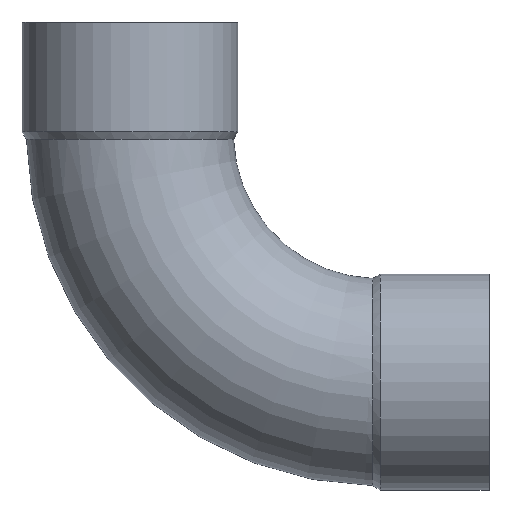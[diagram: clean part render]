
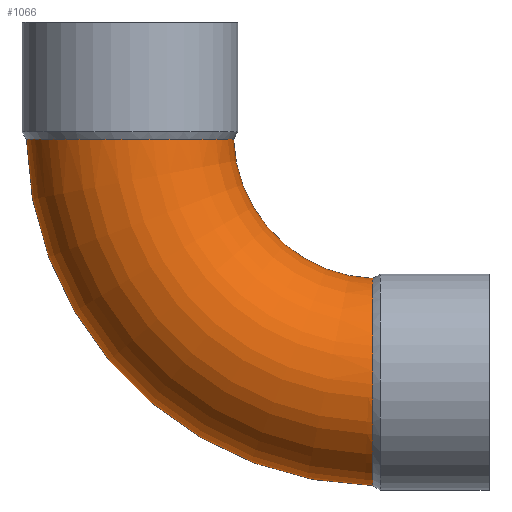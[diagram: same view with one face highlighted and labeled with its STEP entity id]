
A CAD part, front view. The second image highlights one B-rep face of the part: STEP entity #1066.
In plain terms, the highlighted toroidal (fillet/blend) face has major radius 80.04 mm and minor radius 33.35 mm.
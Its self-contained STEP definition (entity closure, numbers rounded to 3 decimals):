
#49=CARTESIAN_POINT('',(-91.34,0.,-1.867));
#50=VERTEX_POINT('',#49);
#51=CARTESIAN_POINT('',(20.168,0.,-113.375));
#52=VERTEX_POINT('',#51);
#53=CARTESIAN_POINT('',(22.035,0.,0.0));
#54=DIRECTION('',(0.0,-1.0,0.0));
#55=DIRECTION('',(0.0,0.0,-1.0));
#56=AXIS2_PLACEMENT_3D('',#53,#54,#55);
#57=CIRCLE('',#56,113.39);
#58=EDGE_CURVE('',#50,#52,#57,.T.);
#60=CARTESIAN_POINT('',(-24.621,0.,-1.781));
#61=VERTEX_POINT('',#60);
#85=CARTESIAN_POINT('',(20.254,0.,-46.656));
#86=VERTEX_POINT('',#85);
#87=CARTESIAN_POINT('',(22.035,0.,0.0));
#88=DIRECTION('',(0.0,1.0,0.0));
#89=DIRECTION('',(0.0,0.0,-1.0));
#90=AXIS2_PLACEMENT_3D('',#87,#88,#89);
#91=CIRCLE('',#90,46.69);
#92=EDGE_CURVE('',#86,#61,#91,.T.);
#228=CARTESIAN_POINT('',(-24.621,0.,-1.781));
#229=CARTESIAN_POINT('',(-24.621,-0.29,-1.781));
#230=CARTESIAN_POINT('',(-24.625,-0.581,-1.781));
#231=CARTESIAN_POINT('',(-24.746,-5.212,-1.781));
#232=CARTESIAN_POINT('',(-25.706,-9.488,-1.784));
#233=CARTESIAN_POINT('',(-29.214,-17.435,-1.793));
#234=CARTESIAN_POINT('',(-31.728,-21.028,-1.799));
#235=CARTESIAN_POINT('',(-37.992,-27.05,-1.812));
#236=CARTESIAN_POINT('',(-41.683,-29.42,-1.818));
#237=CARTESIAN_POINT('',(-49.766,-32.613,-1.83));
#238=CARTESIAN_POINT('',(-54.08,-33.404,-1.836));
#239=CARTESIAN_POINT('',(-62.768,-33.29,-1.845));
#240=CARTESIAN_POINT('',(-67.058,-32.385,-1.849));
#241=CARTESIAN_POINT('',(-75.051,-28.981,-1.856));
#242=CARTESIAN_POINT('',(-78.676,-26.516,-1.858));
#243=CARTESIAN_POINT('',(-84.777,-20.334,-1.863));
#244=CARTESIAN_POINT('',(-87.194,-16.677,-1.864));
#245=CARTESIAN_POINT('',(-90.491,-8.643,-1.866));
#246=CARTESIAN_POINT('',(-91.34,-4.342,-1.867));
#247=CARTESIAN_POINT('',(-91.34,0.,-1.867));
#248=B_SPLINE_CURVE_WITH_KNOTS('',3,(#228,#229,#230,#231,#232,#233,#234,#235,#236,#237,#238,#239,#240,#241,#242,#243,#244,#245,#246,#247),.UNSPECIFIED.,.F.,.U.,(4,2,2,2,2,2,2,2,2,4),(-10.511,-10.424,-9.122,-7.818,-6.515,-5.211,-3.908,-2.605,-1.303,0.0),.UNSPECIFIED.);
#249=EDGE_CURVE('',#61,#50,#248,.T.);
#1033=CARTESIAN_POINT('',(22.035,0.,0.0));
#1034=DIRECTION('',(0.0,-1.0,0.0));
#1035=DIRECTION('',(0.0,0.0,-1.0));
#1036=AXIS2_PLACEMENT_3D('',#1033,#1034,#1035);
#1037=TOROIDAL_SURFACE('',#1036,80.04,33.35);
#1038=ORIENTED_EDGE('',*,*,#58,.T.);
#1039=CARTESIAN_POINT('',(20.168,0.,-113.375));
#1040=CARTESIAN_POINT('',(20.168,-2.459,-113.375));
#1041=CARTESIAN_POINT('',(20.169,-4.91,-113.103));
#1042=CARTESIAN_POINT('',(20.169,-9.707,-112.025));
#1043=CARTESIAN_POINT('',(20.17,-12.039,-111.223));
#1044=CARTESIAN_POINT('',(20.171,-18.187,-108.314));
#1045=CARTESIAN_POINT('',(20.173,-21.712,-105.707));
#1046=CARTESIAN_POINT('',(20.178,-27.566,-99.289));
#1047=CARTESIAN_POINT('',(20.18,-29.838,-95.539));
#1048=CARTESIAN_POINT('',(20.187,-32.817,-87.377));
#1049=CARTESIAN_POINT('',(20.192,-33.495,-83.044));
#1050=CARTESIAN_POINT('',(20.201,-33.153,-74.361));
#1051=CARTESIAN_POINT('',(20.207,-32.135,-70.094));
#1052=CARTESIAN_POINT('',(20.219,-28.521,-62.191));
#1053=CARTESIAN_POINT('',(20.226,-25.96,-58.631));
#1054=CARTESIAN_POINT('',(20.238,-19.62,-52.694));
#1055=CARTESIAN_POINT('',(20.244,-15.901,-50.374));
#1056=CARTESIAN_POINT('',(20.252,-8.058,-47.392));
#1057=CARTESIAN_POINT('',(20.254,-4.045,-46.656));
#1058=CARTESIAN_POINT('',(20.254,0.,-46.656));
#1059=B_SPLINE_CURVE_WITH_KNOTS('',3,(#1039,#1040,#1041,#1042,#1043,#1044,#1045,#1046,#1047,#1048,#1049,#1050,#1051,#1052,#1053,#1054,#1055,#1056,#1057,#1058),.UNSPECIFIED.,.F.,.U.,(4,2,2,2,2,2,2,2,2,4),(-21.02,-20.282,-19.545,-18.242,-16.939,-15.636,-14.332,-13.029,-11.726,-10.511),.UNSPECIFIED.);
#1060=EDGE_CURVE('',#52,#86,#1059,.T.);
#1061=ORIENTED_EDGE('',*,*,#1060,.T.);
#1062=ORIENTED_EDGE('',*,*,#92,.T.);
#1063=ORIENTED_EDGE('',*,*,#249,.T.);
#1064=EDGE_LOOP('',(#1038,#1061,#1062,#1063));
#1065=FACE_OUTER_BOUND('',#1064,.T.);
#1066=ADVANCED_FACE('',(#1065),#1037,.T.);
